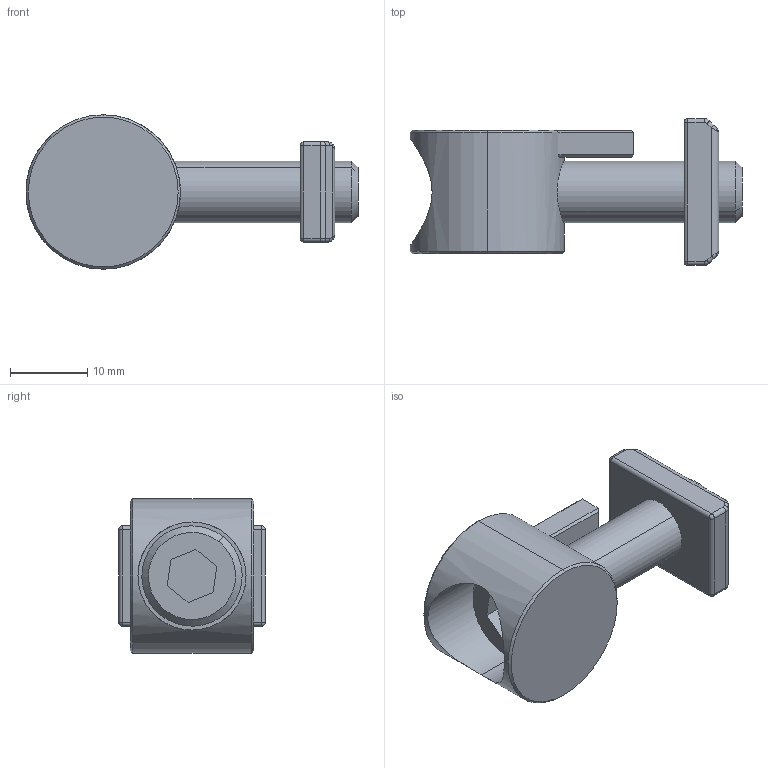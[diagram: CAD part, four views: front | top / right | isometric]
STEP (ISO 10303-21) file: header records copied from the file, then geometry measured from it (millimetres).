
FILE_DESCRIPTION (( 'STEP AP203' ), '1' );
FILE_NAME ('WSH0820.STEP', '2024-02-19T05:42:36', ( '' ), ( '' ), 'SwSTEP 2.0', 'SolidWorks 2022', '' );
FILE_SCHEMA (( 'CONFIG_CONTROL_DESIGN' ));
Length unit declared in the file: millimetre
Products named in the file (4): PN08M8; HSC0828; WSH0820
Assembly tree (3 placements, depth 2):
  WSH0820
    WSH0820
    HSC0828
    PN08M8
Bounding box: 43 x 19 x 20 mm (x, y, z)
Volume: 6001.5 mm3; surface area: 4532.6 mm2
Topology: 3 solids, 3 shells, 104 faces, 241 edges, 138 vertices
Faces by surface type: cylinder 32, plane 31, cone 25, bspline 8, torus 4, sphere 4
Entity records: 3529 total; most frequent: CARTESIAN_POINT 828, DIRECTION 510, ORIENTED_EDGE 466, EDGE_CURVE 233, AXIS2_PLACEMENT_3D 199, VERTEX_POINT 138, LINE 112, VECTOR 112
